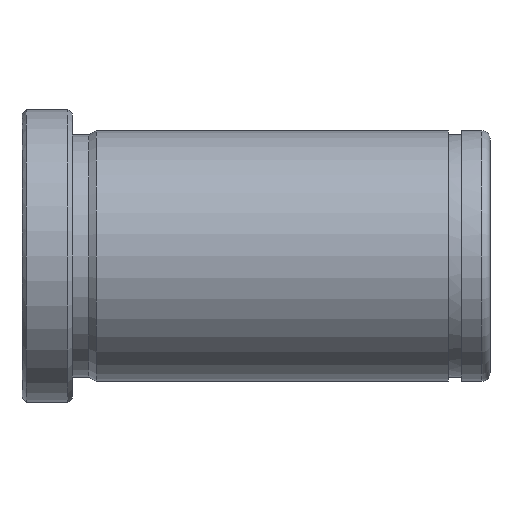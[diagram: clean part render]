
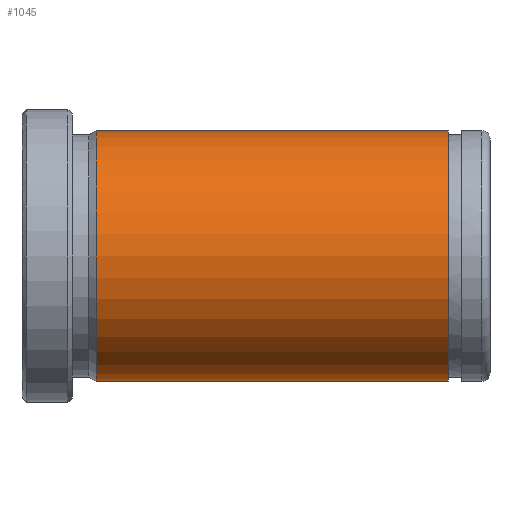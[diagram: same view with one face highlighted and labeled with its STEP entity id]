
A CAD part, front view. The second image highlights one B-rep face of the part: STEP entity #1045.
In plain terms, the highlighted cylindrical face has radius 15 mm (diameter 30 mm), a partial arc.
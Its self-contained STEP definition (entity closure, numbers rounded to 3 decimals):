
#851=CARTESIAN_POINT('Vertex',(8.866,0.,-15.)) ;
#858=CARTESIAN_POINT('Vertex',(8.866,0.,15.)) ;
#887=CARTESIAN_POINT('Axis2P3D Location',(8.866,0.,0.)) ;
#891=CARTESIAN_POINT('Vertex',(8.866,-15.,0.)) ;
#894=CARTESIAN_POINT('Axis2P3D Location',(8.866,0.,0.)) ;
#985=CARTESIAN_POINT('Line Origine',(112.,0.,15.)) ;
#989=CARTESIAN_POINT('Vertex',(51.,0.,15.)) ;
#1003=CARTESIAN_POINT('Vertex',(51.,0.,-15.)) ;
#1006=CARTESIAN_POINT('Line Origine',(112.,0.,-15.)) ;
#1020=CARTESIAN_POINT('Axis2P3D Location',(112.,0.,0.)) ;
#1025=CARTESIAN_POINT('Axis2P3D Location',(51.,0.,0.)) ;
#1029=CARTESIAN_POINT('Vertex',(51.,-15.,0.)) ;
#1032=CARTESIAN_POINT('Axis2P3D Location',(51.,0.,0.)) ;
#888=DIRECTION('Axis2P3D Direction',(1.,0.,-0.)) ;
#895=DIRECTION('Axis2P3D Direction',(1.,0.,-0.)) ;
#986=DIRECTION('Vector Direction',(-1.,0.,0.)) ;
#1007=DIRECTION('Vector Direction',(-1.,0.,0.)) ;
#1021=DIRECTION('Axis2P3D Direction',(-1.,-0.,-0.)) ;
#1022=DIRECTION('Axis2P3D XDirection',(0.,0.,-1.)) ;
#1026=DIRECTION('Axis2P3D Direction',(-1.,-0.,-0.)) ;
#1033=DIRECTION('Axis2P3D Direction',(-1.,-0.,-0.)) ;
#889=AXIS2_PLACEMENT_3D('Circle Axis2P3D',#887,#888,$) ;
#896=AXIS2_PLACEMENT_3D('Circle Axis2P3D',#894,#895,$) ;
#1023=AXIS2_PLACEMENT_3D('Cylinder Axis2P3D',#1020,#1021,#1022) ;
#1027=AXIS2_PLACEMENT_3D('Circle Axis2P3D',#1025,#1026,$) ;
#1034=AXIS2_PLACEMENT_3D('Circle Axis2P3D',#1032,#1033,$) ;
#1038=ORIENTED_EDGE('',*,*,#1010,.T.) ;
#1039=ORIENTED_EDGE('',*,*,#1031,.F.) ;
#1040=ORIENTED_EDGE('',*,*,#1036,.F.) ;
#1041=ORIENTED_EDGE('',*,*,#991,.T.) ;
#1042=ORIENTED_EDGE('',*,*,#898,.T.) ;
#1043=ORIENTED_EDGE('',*,*,#893,.T.) ;
#987=VECTOR('Line Direction',#986,1.) ;
#1008=VECTOR('Line Direction',#1007,1.) ;
#1045=ADVANCED_FACE('553-24X56',(#1044),#1024,.T.) ;
#890=CIRCLE('generated circle',#889,15.) ;
#897=CIRCLE('generated circle',#896,15.) ;
#1028=CIRCLE('generated circle',#1027,15.) ;
#1035=CIRCLE('generated circle',#1034,15.) ;
#1024=CYLINDRICAL_SURFACE('generated cylinder',#1023,15.) ;
#893=EDGE_CURVE('',#892,#852,#890,.T.) ;
#898=EDGE_CURVE('',#859,#892,#897,.T.) ;
#991=EDGE_CURVE('',#990,#859,#988,.T.) ;
#1010=EDGE_CURVE('',#852,#1004,#1009,.F.) ;
#1031=EDGE_CURVE('',#1030,#1004,#1028,.F.) ;
#1036=EDGE_CURVE('',#990,#1030,#1035,.F.) ;
#1037=EDGE_LOOP('',(#1038,#1039,#1040,#1041,#1042,#1043)) ;
#1044=FACE_OUTER_BOUND('',#1037,.T.) ;
#988=LINE('Line',#985,#987) ;
#1009=LINE('Line',#1006,#1008) ;
#852=VERTEX_POINT('',#851) ;
#859=VERTEX_POINT('',#858) ;
#892=VERTEX_POINT('',#891) ;
#990=VERTEX_POINT('',#989) ;
#1004=VERTEX_POINT('',#1003) ;
#1030=VERTEX_POINT('',#1029) ;
